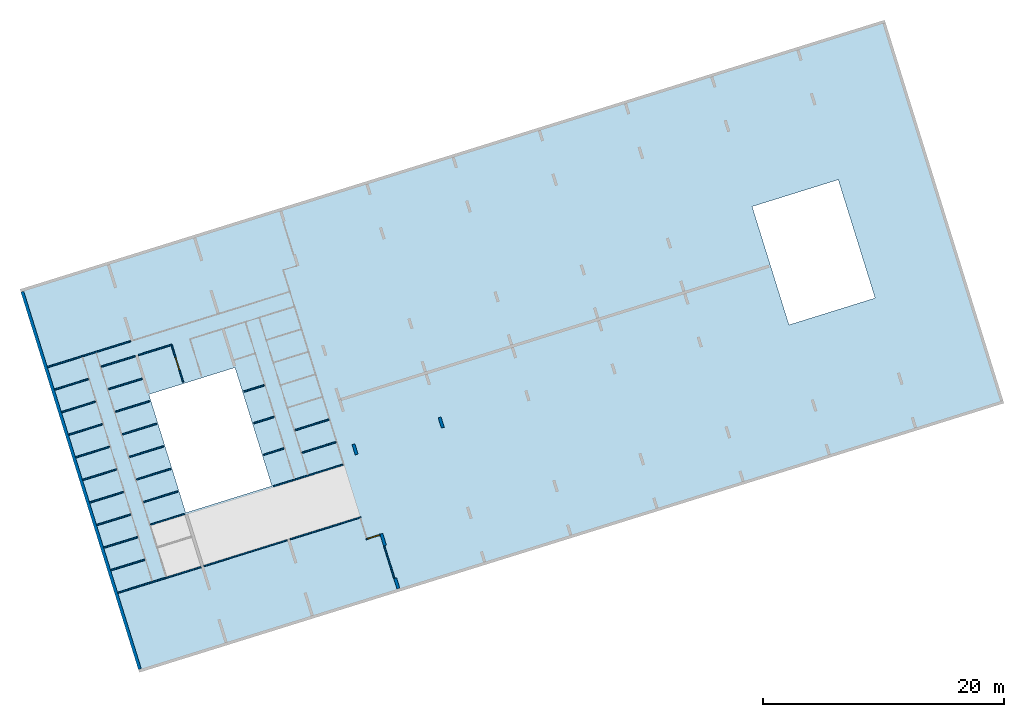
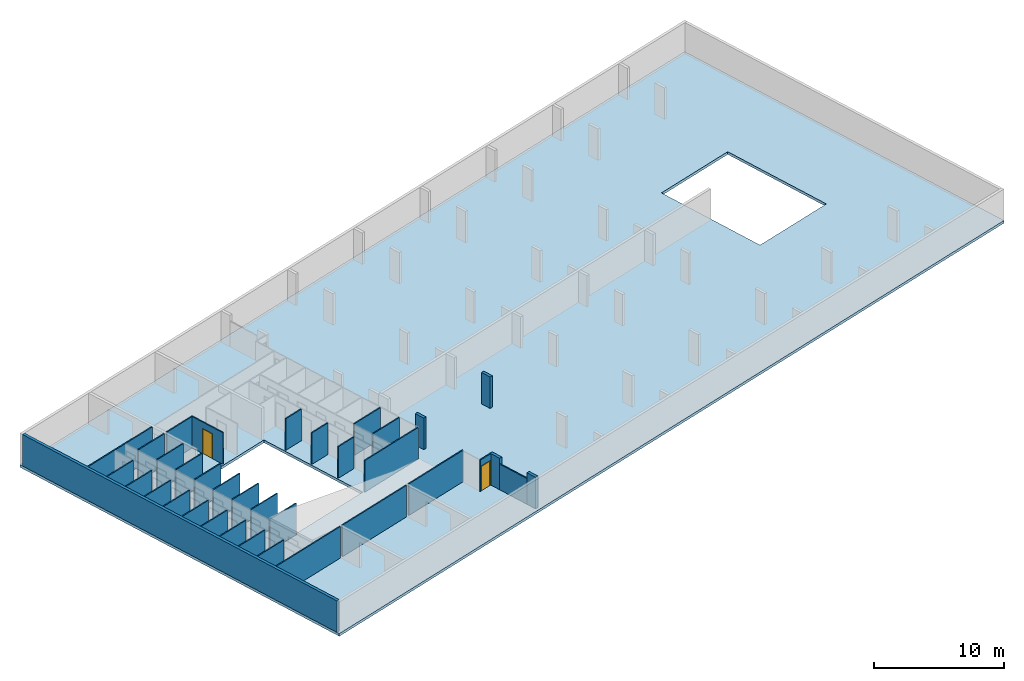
# One storey, part 1 of 7: 36 walls, 2 doors, 1 slab, 5 openings.
"""IFC4 building model written with IfcOpenShell, lengths in metres."""

from ifc_helpers import new_model, entity, si_unit, converted_unit, direction, frame, origin, place, context, subcontext, project, spatial, indexed_curve, outline, extrude, polygons, source, transform, mapped, material, constituent, constituent_set, type_object, type_shapes, element, fill, save


model = new_model("IFC4")

# Units and contexts
model_context = context("Model", 3, precision=1e-05, world=origin(), true_north=direction((6.12323399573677e-17, 1.0)))
body_context = subcontext(model_context, "Body", "Model", "MODEL_VIEW")
ifc_project = project(units=[si_unit("LENGTHUNIT", "METRE"), si_unit("AREAUNIT", "SQUARE_METRE"), si_unit("VOLUMEUNIT", "CUBIC_METRE"), converted_unit("PLANEANGLEUNIT", "DEGREE", entity("IfcPlaneAngleMeasure", 0.0174532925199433), si_unit("PLANEANGLEUNIT", "RADIAN"), dimensions=[0, 0, 0, 0, 0, 0, 0])], contexts=[model_context])

# Site, building, storey
site_placement = place(None, frame((13.1347999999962, 11.9886000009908, 0.0), z_axis=(0.0, 0.0, 1.0), x_axis=(0.954770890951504, 0.297342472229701, 0.0)))
site = spatial("IfcSite", under=ifc_project, at=site_placement, Name="Schiehaven", CompositionType="ELEMENT")
building_placement = place(site_placement, origin())
building = spatial("IfcBuilding", under=site, at=building_placement, Name="VORM huis", CompositionType="ELEMENT")
storey_placement = place(building_placement, frame((0.0, 0.0, -3.2)))
storey = spatial("IfcBuildingStorey", under=building, at=storey_placement, Name="-1 kelder", CompositionType="ELEMENT", Elevation=-3.2)

# Slab, openings
ifc_material_1 = material(Name="beton_gewapend_ihw", Category="Miscellaneous")
slab_type = type_object("IfcSlabType", Name="Floor:13_FL_funderingvloer 250mm", PredefinedType="FLOOR", material=ifc_material_1)
slab_placement = place(storey_placement, origin())
slab = element("IfcSlab", 1, at=slab_placement, inside=storey, type_object=slab_type, material=ifc_material_1, Name="Funderingvloer", ObjectType="Vloer", PredefinedType="FLOOR", context=body_context, shape_type="SweptSolid", body=[
    extrude(outline(indexed_curve([(-37.6250000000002, -16.6750000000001), (37.6250000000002, -16.6750000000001), (37.6250000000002, 16.6750000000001), (-37.6250000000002, 16.6750000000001), (-37.6250000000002, -16.6750000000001)], self_intersect=False), holes=[indexed_curve([(22.5000000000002, -5.14999999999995), (22.5000000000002, 5.15000000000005), (30.0000000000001, 5.15000000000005), (30.0000000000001, -5.14999999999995), (22.5000000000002, -5.14999999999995)], self_intersect=False), indexed_curve([(-29.9999999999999, -5.14999999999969), (-29.9999999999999, 5.15000000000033), (-22.4999999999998, 5.15000000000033), (-22.4999999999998, -5.14999999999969), (-29.9999999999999, -5.14999999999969)], self_intersect=False)]), frame((42.5000000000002, 17.0500000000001, -0.25), z_axis=(0.0, 0.0, 1.0), x_axis=(-1.0, 0.0, 0.0)), (0.0, 0.0, 1.0), 0.25),
])
opening_1_placement = place(slab_placement, origin())
element("IfcOpeningElement", 2, at=opening_1_placement, cuts=slab, Name="Funderingvloer", PredefinedType="OPENING", context=body_context, shape_type="SweptSolid", body=[
    extrude(outline(indexed_curve([(-5.15, -3.74999999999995), (5.15, -3.74999999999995), (5.15, 3.74999999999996), (-5.15, 3.74999999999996), (-5.15, -3.74999999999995)], self_intersect=False)), frame((16.2500000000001, 17.05, 0.0), z_axis=(0.0, 0.0, -1.0), x_axis=(0.0, -1.0, 0.0)), (0.0, 0.0, 1.0), 33.3500000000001),
])
opening_2_placement = place(slab_placement, origin())
element("IfcOpeningElement", 3, at=opening_2_placement, cuts=slab, Name="Funderingvloer", PredefinedType="OPENING", context=body_context, shape_type="SweptSolid", body=[
    extrude(outline(indexed_curve([(-5.15000000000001, -3.75000000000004), (5.15000000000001, -3.75000000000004), (5.15000000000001, 3.75000000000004), (-5.15000000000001, 3.75000000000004), (-5.15000000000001, -3.75000000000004)], self_intersect=False)), frame((68.7500000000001, 17.0499999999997, 0.0), z_axis=(0.0, 0.0, -1.0), x_axis=(0.0, -1.0, 0.0)), (0.0, 0.0, 1.0), 33.3500000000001),
])

# Walls
wall_type_1 = type_object("IfcWallType", Name="Basic Wall:28_WA_skelet_keerwand 250mm_gen", PredefinedType="STANDARD")
wall_1_placement = place(storey_placement, frame((5.0, 0.624999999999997, 0.0), z_axis=(0.0, 0.0, 1.0), x_axis=(0.0, 1.0, 0.0)))
element("IfcWall", 4, at=wall_1_placement, inside=storey, type_object=wall_type_1, material=ifc_material_1, Name="Constructieve keerwand", ObjectType="Wand", PredefinedType="NOTDEFINED", context=body_context, shape_type="SweptSolid", body=[
    extrude(outline(indexed_curve([(32.8500000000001, 0.125), (0.0, 0.125), (0.0, -0.125), (32.8500000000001, -0.125), (32.8500000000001, 0.125)], self_intersect=False)), origin(), (0.0, 0.0, 1.0), 2.95),
])
wall_type_2 = type_object("IfcWallType", Name="Basic Wall:28_WA_skelet_wand 250mm_gen", PredefinedType="STANDARD")
for number, where, z_axis, x_axis, name in (
    (5, (35.0, 12.2949999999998, 0.0), (0.0, 0.0, 1.0), (0.0, 1.0, 0.0), "Constructieve wand"),
    (6, (27.5000000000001, 12.2949999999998, 0.0), (0.0, 0.0, 1.0), (0.0, 1.0, 0.0), "Constructieve wand"),
):
    element("IfcWall", number, at=place(storey_placement, frame(where, z_axis=z_axis, x_axis=x_axis)), inside=storey, type_object=wall_type_2, material=ifc_material_1, Name=name, ObjectType="Wand", PredefinedType="NOTDEFINED", context=body_context, shape_type="SweptSolid", body=[
        extrude(outline(indexed_curve([(0.900000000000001, 0.125000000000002), (0.0, 0.125000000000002), (0.0, -0.125000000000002), (0.900000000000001, -0.125000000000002), (0.900000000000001, 0.125000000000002)], self_intersect=False)), origin(), (0.0, 0.0, 1.0), 2.95),
    ])
wall_2_placement = place(storey_placement, frame((27.5000000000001, 4.3749999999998, 0.0), z_axis=(0.0, 0.0, 1.0), x_axis=(0.0, 1.0, 0.0)))
element("IfcWall", 7, at=wall_2_placement, inside=storey, type_object=wall_type_2, material=ifc_material_1, Name="Constructieve wand", ObjectType="Wand", PredefinedType="NOTDEFINED", context=body_context, shape_type="SweptSolid", body=[
    extrude(outline(indexed_curve([(1.025, 0.125000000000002), (0.0, 0.125000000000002), (0.0, -0.125000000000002), (1.025, -0.125000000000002), (1.025, 0.125000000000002)], self_intersect=False)), origin(), (0.0, 0.0, 1.0), 2.95),
])
wall_3_placement = place(storey_placement, frame((27.5000000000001, 1.52500000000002, 0.0), z_axis=(0.0, 0.0, 1.0), x_axis=(0.0, -1.0, 0.0)))
element("IfcWall", 8, at=wall_3_placement, inside=storey, type_object=wall_type_2, material=ifc_material_1, Name="Constructieve wand", ObjectType="Wand", PredefinedType="NOTDEFINED", context=body_context, shape_type="SweptSolid", body=[
    extrude(outline(indexed_curve([(0.900000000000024, 0.125000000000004), (2.39074561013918e-16, 0.125000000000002), (-2.39074561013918e-16, -0.125000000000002), (0.900000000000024, -0.125), (0.900000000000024, 0.125000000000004)], self_intersect=False)), origin(), (0.0, 0.0, 1.0), 2.95),
])
ifc_material_2 = material(Name="ntb_ntb_ntb", Category="Miscellaneous")
wall_type_3 = type_object("IfcWallType", Name="Basic Wall:22_WA_afbouw_binnenwand 100mm_gen", PredefinedType="STANDARD")
wall_4_placement = place(storey_placement, frame((26.1750000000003, 11.825, 0.0), z_axis=(0.0, 0.0, 1.0), x_axis=(-1.0, 0.0, 0.0)))
element("IfcWall", 9, at=wall_4_placement, inside=storey, type_object=wall_type_3, material=ifc_material_2, Name="Binnenwand", ObjectType="Wand", PredefinedType="NOTDEFINED", context=body_context, shape_type="SweptSolid", body=[
    extrude(outline(indexed_curve([(6.05000000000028, 0.0499999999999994), (-1.60577808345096e-16, 0.0499999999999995), (1.60577808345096e-16, -0.0499999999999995), (6.05000000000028, -0.0499999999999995), (6.05000000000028, 0.0499999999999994)], self_intersect=False)), origin(), (0.0, 0.0, 1.0), 2.95),
])
wall_5_placement = place(storey_placement, frame((26.2750000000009, 7.22500000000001, 0.0), z_axis=(0.0, 0.0, 1.0), x_axis=(-1.0, 0.0, 0.0)))
element("IfcWall", 10, at=wall_5_placement, inside=storey, type_object=wall_type_3, material=ifc_material_2, Name="Binnenwand", ObjectType="Wand", PredefinedType="NOTDEFINED", context=body_context, shape_type="SweptSolid", body=[
    extrude(outline(indexed_curve([(6.15000000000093, 0.0499999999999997), (-1.60577808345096e-16, 0.0499999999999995), (1.60577808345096e-16, -0.0499999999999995), (6.15000000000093, -0.0499999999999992), (6.15000000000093, 0.0499999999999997)], self_intersect=False)), origin(), (0.0, 0.0, 1.0), 2.95),
])
wall_6_placement = place(storey_placement, frame((12.6250000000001, 7.22500000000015, 0.0)))
element("IfcWall", 11, at=wall_6_placement, inside=storey, type_object=wall_type_3, material=ifc_material_2, Name="Binnenwand", ObjectType="Wand", PredefinedType="NOTDEFINED", context=body_context, shape_type="SweptSolid", body=[
    extrude(outline(indexed_curve([(7.25000000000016, 0.0499999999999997), (-4.87118418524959e-16, 0.0499999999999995), (4.87118418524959e-16, -0.0499999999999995), (7.25000000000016, -0.0499999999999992), (7.25000000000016, 0.0499999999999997)], self_intersect=False)), origin(), (0.0, 0.0, 1.0), 2.95),
])

# Wall, opening, door
wall_7_placement = place(storey_placement, frame((15.5250000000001, 25.6249999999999, 0.0), z_axis=(0.0, 0.0, 1.0), x_axis=(0.0, -1.0, 0.0)))
wall_7 = element("IfcWall", 12, at=wall_7_placement, inside=storey, type_object=wall_type_3, material=ifc_material_2, Name="Binnenwand", ObjectType="Wand", PredefinedType="NOTDEFINED", context=body_context, shape_type="Tessellation", body=[
    polygons([(0.0, -0.0499999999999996, 0.0), (0.0999999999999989, -0.0500000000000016, 0.0), (1.17499999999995, -0.0500000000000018, 0.0), (1.17499999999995, -0.0500000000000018, 2.34999999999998), (2.22499999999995, -0.050000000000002, 2.34999999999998), (2.22499999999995, -0.050000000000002, 0.0), (3.2999999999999, -0.0500000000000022, 0.0), (3.2999999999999, -0.0500000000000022, 2.95), (0.0999999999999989, -0.0500000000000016, 2.95), (0.0, -0.0499999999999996, 2.95), (1.17499999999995, 0.0499999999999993, 2.34999999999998), (1.17499999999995, 0.0499999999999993, 0.0), (0.0, 0.0499999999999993, 0.0), (0.0, 0.0499999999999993, 2.95), (3.2999999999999, 0.0500000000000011, 2.95), (3.2999999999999, 0.0500000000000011, 0.0), (2.22499999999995, 0.0499999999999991, 0.0), (2.22499999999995, 0.0499999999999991, 2.34999999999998)], [[[1, 2, 3, 4, 5, 6, 7, 8, 9, 10]], [[11, 12, 13, 14, 15, 16, 17, 18]], [[13, 12, 3, 2, 1]], [[8, 7, 16, 15]], [[10, 9, 8, 15, 14]], [[1, 10, 14, 13]], [[6, 5, 18, 17]], [[4, 3, 12, 11]], [[5, 4, 11, 18]], [[17, 16, 7, 6]]], closed=True),
])
opening_3_placement = place(wall_7_placement, frame((1.17499999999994, -0.0500000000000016, 0.0)))
opening_3 = element("IfcOpeningElement", 13, at=opening_3_placement, cuts=wall_7, Name="Vluchtdeur", PredefinedType="OPENING", context=body_context, shape_type="SweptSolid", body=[
    extrude(outline(indexed_curve([(2.34999999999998, 1.05), (0.0, 1.05), (0.0, 0.0), (2.34999999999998, 0.0), (2.34999999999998, 1.05)], self_intersect=False)), frame((0.0, 0.0, 0.0), z_axis=(0.0, 1.0, 0.0), x_axis=(0.0, 0.0, 1.0)), (0.0, 0.0, 1.0), 0.1),
])
ifc_material_3 = material(Name="PD_a_binnenwandopeningen", Category="Miscellaneous")
ifc_constituent_1 = constituent(ifc_material_3, Name="PD_a_binnenwandopeningen", Category="Miscellaneous")
ifc_material_4 = material(Name="metaal_aluminium_ntb", Category="Miscellaneous")
ifc_constituent_2 = constituent(ifc_material_4, Name="metaal_aluminium_ntb", Category="Miscellaneous")
ifc_constituent_set_1 = constituent_set(constituents=[ifc_constituent_1, ifc_constituent_2])
door_type = type_object("IfcDoorType", Name="32_DO_binnendeur enkel:binnendeur zelfsluitend 30min", OperationType="NOTDEFINED", PredefinedType="DOOR")
shared_shape_1 = source(origin(), body_context, "Body", "SweptSolid", [
    extrude(outline(indexed_curve([(-1.16249999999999, -0.525000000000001), (1.18749999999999, -0.525), (1.18749999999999, 0.525), (-1.16249999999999, 0.525), (-1.16249999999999, 0.475), (1.13749999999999, 0.475), (1.13749999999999, -0.475), (-1.16249999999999, -0.475), (-1.16249999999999, -0.525000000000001)], self_intersect=False)), frame((0.525000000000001, 0.0, 1.16249999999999), z_axis=(0.0, 1.0, 0.0), x_axis=(0.0, 0.0, 1.0)), (0.0, 0.0, 1.0), 0.1),
    extrude(outline(indexed_curve([(-0.025, -0.475), (0.025, -0.475), (0.025, 0.475), (-0.025, 0.475), (-0.025, -0.475)], self_intersect=False)), frame((0.525000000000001, 0.0499999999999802, 0.0), z_axis=(0.0, 0.0, 1.0), x_axis=(0.0, 1.0, 0.0)), (0.0, 0.0, 1.0), 2.29999999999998),
])
type_shapes(door_type, [shared_shape_1])
door_1_placement = place(opening_3_placement, origin())
door_1 = element("IfcDoor", 14, at=door_1_placement, inside=storey, type_object=door_type, material=ifc_constituent_set_1, Name="Vluchtdeur", ObjectType="Deur", OperationType="NOTDEFINED", OverallHeight=2.34999999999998, OverallWidth=1.05, PredefinedType="DOOR", context=body_context, shape_type="MappedRepresentation", body=[
    mapped(shared_shape_1, transform((0.0, 0.0, 0.0), scale=1.0)),
])
fill(opening_3, door_1)

# Walls
wall_8_placement = place(storey_placement, frame((15.4750000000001, 25.5749999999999, 0.0), z_axis=(0.0, 0.0, 1.0), x_axis=(-1.0, 0.0, 0.0)))
element("IfcWall", 15, at=wall_8_placement, inside=storey, type_object=wall_type_3, material=ifc_material_2, Name="Binnenwand", ObjectType="Wand", PredefinedType="NOTDEFINED", context=body_context, shape_type="SweptSolid", body=[
    extrude(outline(indexed_curve([(2.84999999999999, 0.0500000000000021), (-1.60577808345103e-16, 0.0500000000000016), (1.60577808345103e-16, -0.0500000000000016), (2.84999999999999, -0.0500000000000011), (2.84999999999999, 0.0500000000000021)], self_intersect=False)), origin(), (0.0, 0.0, 1.0), 2.95),
])
wall_9_placement = place(storey_placement, frame((21.9000000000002, 14.575, 0.0), z_axis=(0.0, 0.0, 1.0), x_axis=(-1.0, 0.0, 0.0)))
element("IfcWall", 16, at=wall_9_placement, inside=storey, type_object=wall_type_3, material=ifc_material_2, Name="Binnenwand", ObjectType="Wand", PredefinedType="NOTDEFINED", context=body_context, shape_type="SweptSolid", body=[
    extrude(outline(indexed_curve([(1.77500000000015, 0.0499999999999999), (1.71543307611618e-16, 0.0499999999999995), (-1.71543307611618e-16, -0.0499999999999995), (1.77500000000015, -0.0499999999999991), (1.77500000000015, 0.0499999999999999)], self_intersect=False)), origin(), (0.0, 0.0, 1.0), 2.95),
])
wall_10_placement = place(storey_placement, frame((21.9000000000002, 20.0749999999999, 0.0), z_axis=(0.0, 0.0, 1.0), x_axis=(-1.0, 0.0, 0.0)))
element("IfcWall", 17, at=wall_10_placement, inside=storey, type_object=wall_type_3, material=ifc_material_2, Name="Binnenwand", ObjectType="Wand", PredefinedType="NOTDEFINED", context=body_context, shape_type="SweptSolid", body=[
    extrude(outline(indexed_curve([(1.77500000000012, 0.0499999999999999), (1.71543307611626e-16, 0.0500000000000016), (-1.71543307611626e-16, -0.0500000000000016), (1.77500000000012, -0.0500000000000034), (1.77500000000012, 0.0499999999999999)], self_intersect=False)), origin(), (0.0, 0.0, 1.0), 2.95),
])
wall_11_placement = place(storey_placement, frame((21.9000000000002, 17.3249999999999, 0.0), z_axis=(0.0, 0.0, 1.0), x_axis=(-1.0, 0.0, 0.0)))
element("IfcWall", 18, at=wall_11_placement, inside=storey, type_object=wall_type_3, material=ifc_material_2, Name="Binnenwand", ObjectType="Wand", PredefinedType="NOTDEFINED", context=body_context, shape_type="SweptSolid", body=[
    extrude(outline(indexed_curve([(1.77500000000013, 0.0499999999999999), (1.71543307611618e-16, 0.0499999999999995), (-1.71543307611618e-16, -0.0499999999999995), (1.77500000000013, -0.0499999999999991), (1.77500000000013, 0.0499999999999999)], self_intersect=False)), origin(), (0.0, 0.0, 1.0), 2.95),
])
for number, where in (
    (19, (23.2000000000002, 13.7892857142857, 0.0)),
    (20, (23.2000000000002, 15.7535714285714, 0.0)),
):
    element("IfcWall", number, at=place(storey_placement, frame(where)), inside=storey, type_object=wall_type_3, material=ifc_material_2, Name="Binnenwand", ObjectType="Wand", PredefinedType="NOTDEFINED", context=body_context, shape_type="SweptSolid", body=[
        extrude(outline(indexed_curve([(2.97500000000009, 0.0499999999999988), (-1.71543307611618e-16, 0.0499999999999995), (1.71543307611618e-16, -0.0499999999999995), (2.97500000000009, -0.0500000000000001), (2.97500000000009, 0.0499999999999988)], self_intersect=False)), origin(), (0.0, 0.0, 1.0), 2.95),
    ])
wall_12_placement = place(storey_placement, frame((5.12499999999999, 26.875, 0.0)))
element("IfcWall", 21, at=wall_12_placement, inside=storey, type_object=wall_type_3, material=ifc_material_2, Name="Binnenwand", ObjectType="Wand", PredefinedType="NOTDEFINED", context=body_context, shape_type="SweptSolid", body=[
    extrude(outline(indexed_curve([(7.25000000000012, 0.0500000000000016), (-3.58466360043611e-16, 0.0500000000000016), (3.58466360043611e-16, -0.0500000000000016), (7.25000000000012, -0.0500000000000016), (7.25000000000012, 0.0500000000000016)], self_intersect=False)), origin(), (0.0, 0.0, 1.0), 2.95),
])
wall_13_placement = place(storey_placement, frame((5.12499999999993, 7.22500000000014, 0.0)))
element("IfcWall", 22, at=wall_13_placement, inside=storey, type_object=wall_type_3, material=ifc_material_2, Name="Binnenwand", ObjectType="Wand", PredefinedType="NOTDEFINED", context=body_context, shape_type="SweptSolid", body=[
    extrude(outline(indexed_curve([(7.25000000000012, 0.0499999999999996), (3.63669267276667e-17, 0.0499999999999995), (-3.63669267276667e-17, -0.0499999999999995), (7.25000000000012, -0.0499999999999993), (7.25000000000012, 0.0499999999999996)], self_intersect=False)), origin(), (0.0, 0.0, 1.0), 2.95),
])
wall_14_placement = place(storey_placement, frame((9.40000000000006, 25.5749999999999, 0.0)))
element("IfcWall", 23, at=wall_14_placement, inside=storey, type_object=wall_type_3, material=ifc_material_2, Name="Binnenwand", ObjectType="Wand", PredefinedType="NOTDEFINED", context=body_context, shape_type="SweptSolid", body=[
    extrude(outline(indexed_curve([(2.97500000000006, 0.0499999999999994), (-1.80637123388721e-16, 0.0500000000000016), (-9.02230005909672e-16, -0.0500000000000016), (2.97500000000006, -0.0500000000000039), (2.97500000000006, 0.0499999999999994)], self_intersect=False)), origin(), (0.0, 0.0, 1.0), 2.95),
])
wall_15_placement = place(storey_placement, frame((8.10000000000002, 17.0500000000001, 0.0), z_axis=(0.0, 0.0, 1.0), x_axis=(-1.0, 0.0, 0.0)))
element("IfcWall", 24, at=wall_15_placement, inside=storey, type_object=wall_type_3, material=ifc_material_2, Name="Binnenwand", ObjectType="Wand", PredefinedType="NOTDEFINED", context=body_context, shape_type="SweptSolid", body=[
    extrude(outline(indexed_curve([(2.97500000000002, 0.0499999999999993), (-1.43189041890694e-16, 0.0499999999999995), (1.43189041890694e-16, -0.0499999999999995), (2.97500000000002, -0.0499999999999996), (2.97500000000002, 0.0499999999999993)], self_intersect=False)), origin(), (0.0, 0.0, 1.0), 2.95),
])
wall_16_placement = place(storey_placement, frame((8.10000000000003, 20.9800000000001, 0.0), z_axis=(0.0, 0.0, 1.0), x_axis=(-1.0, 0.0, 0.0)))
element("IfcWall", 25, at=wall_16_placement, inside=storey, type_object=wall_type_3, material=ifc_material_2, Name="Binnenwand", ObjectType="Wand", PredefinedType="NOTDEFINED", context=body_context, shape_type="SweptSolid", body=[
    extrude(outline(indexed_curve([(2.97500000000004, 0.0500000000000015), (-1.43189041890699e-16, 0.0500000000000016), (1.43189041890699e-16, -0.0500000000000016), (2.97500000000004, -0.0500000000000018), (2.97500000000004, 0.0500000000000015)], self_intersect=False)), origin(), (0.0, 0.0, 1.0), 2.95),
])
wall_17_placement = place(storey_placement, frame((8.10000000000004, 22.9450000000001, 0.0), z_axis=(0.0, 0.0, 1.0), x_axis=(-1.0, 0.0, 0.0)))
element("IfcWall", 26, at=wall_17_placement, inside=storey, type_object=wall_type_3, material=ifc_material_2, Name="Binnenwand", ObjectType="Wand", PredefinedType="NOTDEFINED", context=body_context, shape_type="SweptSolid", body=[
    extrude(outline(indexed_curve([(2.97500000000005, 0.0500000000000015), (-1.43189041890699e-16, 0.0500000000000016), (1.43189041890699e-16, -0.0500000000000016), (2.97500000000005, -0.0500000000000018), (2.97500000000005, 0.0500000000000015)], self_intersect=False)), origin(), (0.0, 0.0, 1.0), 2.95),
])
wall_18_placement = place(storey_placement, frame((8.10000000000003, 19.0150000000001, 0.0), z_axis=(0.0, 0.0, 1.0), x_axis=(-1.0, 0.0, 0.0)))
element("IfcWall", 27, at=wall_18_placement, inside=storey, type_object=wall_type_3, material=ifc_material_2, Name="Binnenwand", ObjectType="Wand", PredefinedType="NOTDEFINED", context=body_context, shape_type="SweptSolid", body=[
    extrude(outline(indexed_curve([(2.97500000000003, 0.0499999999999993), (-1.43189041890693e-16, 0.0499999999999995), (1.43189041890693e-16, -0.0499999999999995), (2.97500000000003, -0.0499999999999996), (2.97500000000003, 0.0499999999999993)], self_intersect=False)), origin(), (0.0, 0.0, 1.0), 2.95),
])
wall_19_placement = place(storey_placement, frame((9.40000000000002, 17.7178571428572, 0.0)))
element("IfcWall", 28, at=wall_19_placement, inside=storey, type_object=wall_type_3, material=ifc_material_2, Name="Binnenwand", ObjectType="Wand", PredefinedType="NOTDEFINED", context=body_context, shape_type="SweptSolid", body=[
    extrude(outline(indexed_curve([(2.97500000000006, 0.0499999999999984), (-4.91905221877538e-16, 0.0499999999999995), (4.91905221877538e-16, -0.0499999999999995), (2.97500000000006, -0.0500000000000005), (2.97500000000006, 0.0499999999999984)], self_intersect=False)), origin(), (0.0, 0.0, 1.0), 2.95),
])
wall_20_placement = place(storey_placement, frame((9.40000000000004, 21.6464285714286, 0.0)))
element("IfcWall", 29, at=wall_20_placement, inside=storey, type_object=wall_type_3, material=ifc_material_2, Name="Binnenwand", ObjectType="Wand", PredefinedType="NOTDEFINED", context=body_context, shape_type="SweptSolid", body=[
    extrude(outline(indexed_curve([(2.97500000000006, 0.0500000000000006), (-4.91905221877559e-16, 0.0500000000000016), (4.91905221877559e-16, -0.0500000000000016), (2.97500000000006, -0.0500000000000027), (2.97500000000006, 0.0500000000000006)], self_intersect=False)), origin(), (0.0, 0.0, 1.0), 2.95),
])
wall_21_placement = place(storey_placement, frame((9.40000000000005, 23.6107142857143, 0.0)))
element("IfcWall", 30, at=wall_21_placement, inside=storey, type_object=wall_type_3, material=ifc_material_2, Name="Binnenwand", ObjectType="Wand", PredefinedType="NOTDEFINED", context=body_context, shape_type="SweptSolid", body=[
    extrude(outline(indexed_curve([(2.97499999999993, 0.0500000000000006), (-4.91905221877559e-16, 0.0500000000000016), (4.91905221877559e-16, -0.0500000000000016), (2.97499999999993, -0.0500000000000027), (2.97499999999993, 0.0500000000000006)], self_intersect=False)), origin(), (0.0, 0.0, 1.0), 2.95),
])
wall_22_placement = place(storey_placement, frame((9.40000000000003, 19.6821428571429, 0.0)))
element("IfcWall", 31, at=wall_22_placement, inside=storey, type_object=wall_type_3, material=ifc_material_2, Name="Binnenwand", ObjectType="Wand", PredefinedType="NOTDEFINED", context=body_context, shape_type="SweptSolid", body=[
    extrude(outline(indexed_curve([(2.97499999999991, 0.0500000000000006), (-4.91905221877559e-16, 0.0500000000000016), (4.91905221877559e-16, -0.0500000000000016), (2.97499999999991, -0.0500000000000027), (2.97499999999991, 0.0500000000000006)], self_intersect=False)), origin(), (0.0, 0.0, 1.0), 2.95),
])
for number, where, z_axis, x_axis in (
    (32, (8.1, 13.1200000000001, 0.0), (0.0, 0.0, 1.0), (-1.0, 0.0, 0.0)),
    (33, (8.09999999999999, 11.1550000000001, 0.0), (0.0, 0.0, 1.0), (-1.0, 0.0, 0.0)),
):
    element("IfcWall", number, at=place(storey_placement, frame(where, z_axis=z_axis, x_axis=x_axis)), inside=storey, type_object=wall_type_3, material=ifc_material_2, Name="Binnenwand", ObjectType="Wand", PredefinedType="NOTDEFINED", context=body_context, shape_type="SweptSolid", body=[
        extrude(outline(indexed_curve([(2.975, 0.0499999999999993), (-1.43189041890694e-16, 0.0499999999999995), (1.43189041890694e-16, -0.0499999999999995), (2.975, -0.0499999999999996), (2.975, 0.0499999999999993)], self_intersect=False)), origin(), (0.0, 0.0, 1.0), 2.95),
    ])
wall_23_placement = place(storey_placement, frame((8.10000000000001, 15.0850000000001, 0.0), z_axis=(0.0, 0.0, 1.0), x_axis=(-1.0, 0.0, 0.0)))
element("IfcWall", 34, at=wall_23_placement, inside=storey, type_object=wall_type_3, material=ifc_material_2, Name="Binnenwand", ObjectType="Wand", PredefinedType="NOTDEFINED", context=body_context, shape_type="SweptSolid", body=[
    extrude(outline(indexed_curve([(2.97500000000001, 0.0499999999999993), (-1.43189041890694e-16, 0.0499999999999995), (1.43189041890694e-16, -0.0499999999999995), (2.97500000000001, -0.0499999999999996), (2.97500000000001, 0.0499999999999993)], self_intersect=False)), origin(), (0.0, 0.0, 1.0), 2.95),
])
wall_24_placement = place(storey_placement, frame((9.4, 13.7892857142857, 0.0)))
element("IfcWall", 35, at=wall_24_placement, inside=storey, type_object=wall_type_3, material=ifc_material_2, Name="Binnenwand", ObjectType="Wand", PredefinedType="NOTDEFINED", context=body_context, shape_type="SweptSolid", body=[
    extrude(outline(indexed_curve([(2.97500000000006, 0.0500000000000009), (1.94268008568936e-16, 0.0499999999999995), (-1.94268008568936e-16, -0.0499999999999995), (2.97500000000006, -0.049999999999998), (2.97500000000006, 0.0500000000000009)], self_intersect=False)), origin(), (0.0, 0.0, 1.0), 2.95),
])
wall_25_placement = place(storey_placement, frame((9.39999999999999, 11.825, 0.0)))
element("IfcWall", 36, at=wall_25_placement, inside=storey, type_object=wall_type_3, material=ifc_material_2, Name="Binnenwand", ObjectType="Wand", PredefinedType="NOTDEFINED", context=body_context, shape_type="SweptSolid", body=[
    extrude(outline(indexed_curve([(2.97500000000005, 0.0500000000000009), (1.94268008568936e-16, 0.0499999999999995), (-1.94268008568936e-16, -0.0499999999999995), (2.97500000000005, -0.049999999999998), (2.97500000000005, 0.0500000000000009)], self_intersect=False)), origin(), (0.0, 0.0, 1.0), 2.95),
])
wall_26_placement = place(storey_placement, frame((9.40000000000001, 15.7535714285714, 0.0)))
element("IfcWall", 37, at=wall_26_placement, inside=storey, type_object=wall_type_3, material=ifc_material_2, Name="Binnenwand", ObjectType="Wand", PredefinedType="NOTDEFINED", context=body_context, shape_type="SweptSolid", body=[
    extrude(outline(indexed_curve([(2.97500000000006, 0.0500000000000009), (1.94268008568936e-16, 0.0499999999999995), (-1.94268008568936e-16, -0.0499999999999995), (2.97500000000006, -0.049999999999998), (2.97500000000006, 0.0500000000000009)], self_intersect=False)), origin(), (0.0, 0.0, 1.0), 2.95),
])
wall_27_placement = place(storey_placement, frame((8.10000000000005, 24.9100000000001, 0.0), z_axis=(0.0, 0.0, 1.0), x_axis=(-1.0, 0.0, 0.0)))
element("IfcWall", 38, at=wall_27_placement, inside=storey, type_object=wall_type_3, material=ifc_material_2, Name="Binnenwand", ObjectType="Wand", PredefinedType="NOTDEFINED", context=body_context, shape_type="SweptSolid", body=[
    extrude(outline(indexed_curve([(2.97500000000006, 0.0500000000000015), (-1.43189041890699e-16, 0.0500000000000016), (1.43189041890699e-16, -0.0500000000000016), (2.97500000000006, -0.0500000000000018), (2.97500000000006, 0.0500000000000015)], self_intersect=False)), origin(), (0.0, 0.0, 1.0), 2.95),
])
wall_28_placement = place(storey_placement, frame((8.09999999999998, 9.19000000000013, 0.0), z_axis=(0.0, 0.0, 1.0), x_axis=(-1.0, 0.0, 0.0)))
element("IfcWall", 39, at=wall_28_placement, inside=storey, type_object=wall_type_3, material=ifc_material_2, Name="Binnenwand", ObjectType="Wand", PredefinedType="NOTDEFINED", context=body_context, shape_type="SweptSolid", body=[
    extrude(outline(indexed_curve([(2.97499999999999, 0.0500000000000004), (-1.43189041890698e-16, 0.0500000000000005), (1.43189041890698e-16, -0.0500000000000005), (2.97499999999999, -0.0500000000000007), (2.97499999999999, 0.0500000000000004)], self_intersect=False)), origin(), (0.0, 0.0, 1.0), 2.95),
])

# Wall, openings, door
wall_29_placement = place(storey_placement, frame((26.1750000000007, 5.3499999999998, 0.0)))
wall_29 = element("IfcWall", 40, at=wall_29_placement, inside=storey, type_object=wall_type_3, material=ifc_material_2, Name="Binnenwand", ObjectType="Wand", PredefinedType="NOTDEFINED", context=body_context, shape_type="Tessellation", body=[
    polygons([(1.19999999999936, -0.0500000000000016, 0.0), (1.19999999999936, -0.0500000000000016, 2.95), (4.8406767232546e-15, -0.0500000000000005, 2.95), (4.8406767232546e-15, -0.0500000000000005, 0.0), (0.0999999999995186, -0.0500000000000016, 0.0), (0.0999999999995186, -0.0500000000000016, 2.34999999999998), (1.14999999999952, -0.0500000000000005, 2.34999999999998), (1.14999999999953, -0.0500000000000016, 0.0), (1.19999999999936, 0.0499999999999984, 2.95), (1.19999999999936, 0.0499999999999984, 0.0), (1.14999999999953, 0.0499999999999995, 0.0), (1.14999999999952, 0.0499999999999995, 2.34999999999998), (0.099999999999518, 0.0499999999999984, 2.34999999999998), (0.0999999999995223, 0.0499999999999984, 0.0), (1.28594148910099e-14, 0.0499999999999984, 0.0), (1.28594148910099e-14, 0.0499999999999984, 2.95), (0.100000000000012, 0.0499999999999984, 2.95)], [[[1, 2, 3, 4, 5, 6, 7, 8]], [[9, 10, 11, 12, 13, 14, 15, 16, 17]], [[4, 15, 14, 5]], [[2, 1, 10, 9]], [[3, 2, 9, 17, 16]], [[13, 6, 5, 14]], [[7, 12, 11, 8]], [[6, 13, 12, 7]], [[4, 3, 16, 15]], [[10, 1, 8, 11]]], closed=True),
])
opening_4_placement = place(wall_29_placement, frame((0.0999999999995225, -0.0500000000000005, 0.0)))
opening_4 = element("IfcOpeningElement", 41, at=opening_4_placement, cuts=wall_29, Name="Vluchtdeur", PredefinedType="OPENING", context=body_context, shape_type="SweptSolid", body=[
    extrude(outline(indexed_curve([(2.34999999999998, 0.0), (2.34999999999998, 1.05), (0.0, 1.05), (0.0, 0.0), (2.34999999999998, 0.0)], self_intersect=False)), frame((0.0, 0.0, 0.0), z_axis=(0.0, 1.0, 0.0), x_axis=(0.0, 0.0, 1.0)), (0.0, 0.0, 1.0), 0.1),
])
opening_5_placement = place(wall_29_placement, frame((-26.1750000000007, -5.3499999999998, 0.0)))
element("IfcOpeningElement", 42, at=opening_5_placement, cuts=wall_29, Name="Vluchtdeur", PredefinedType="OPENING", context=body_context, shape_type="SweptSolid", body=[
    extrude(outline(indexed_curve([(-0.525000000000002, -1.17499999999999), (0.525000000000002, -1.17499999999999), (0.524999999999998, 1.17499999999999), (-0.525000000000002, 1.17499999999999), (-0.525000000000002, -1.17499999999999)], self_intersect=False)), frame((26.8000000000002, 3.77599999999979, 1.17499999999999), z_axis=(0.0, 1.0, 0.0), x_axis=(1.0, 0.0, 0.0)), (0.0, 0.0, 1.0), 3.048),
])
ifc_constituent_3 = constituent(ifc_material_3, Name="PD_a_binnenwandopeningen", Category="Miscellaneous")
ifc_constituent_4 = constituent(ifc_material_4, Name="metaal_aluminium_ntb", Category="Miscellaneous")
ifc_constituent_set_2 = constituent_set(constituents=[ifc_constituent_3, ifc_constituent_4])
shared_shape_2 = source(origin(), body_context, "Body", "SweptSolid", [
    extrude(outline(indexed_curve([(0.475, -1.16249999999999), (0.525, -1.16249999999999), (0.525, 1.18749999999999), (-0.525, 1.18749999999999), (-0.525, -1.16249999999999), (-0.475, -1.16249999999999), (-0.475, 1.13749999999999), (0.475, 1.13749999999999), (0.475, -1.16249999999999)], self_intersect=False)), frame((0.525000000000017, 0.100000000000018, 1.16249999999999), z_axis=(0.0, -1.0, 0.0), x_axis=(1.0, 0.0, 0.0)), (0.0, 0.0, 1.0), 0.1),
    extrude(outline(indexed_curve([(-0.475, -0.025), (0.475, -0.025), (0.475, 0.025), (-0.475, 0.025), (-0.475, -0.025)], self_intersect=False)), frame((0.525000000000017, 0.0499999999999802, 0.0)), (0.0, 0.0, 1.0), 2.29999999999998),
])
door_2_placement = place(opening_4_placement, origin())
door_2 = element("IfcDoor", 43, at=door_2_placement, inside=storey, type_object=door_type, material=ifc_constituent_set_2, Name="Vluchtdeur", ObjectType="Deur", OperationType="NOTDEFINED", OverallHeight=2.34999999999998, OverallWidth=1.05, PredefinedType="DOOR", context=body_context, shape_type="MappedRepresentation", body=[
    mapped(shared_shape_2, transform((0.0, 0.0, 0.0), scale=1.0)),
])
fill(opening_4, door_2)

# Wall
wall_30_placement = place(storey_placement, frame((27.4250000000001, 4.37499999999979, 0.0), z_axis=(0.0, 0.0, 1.0), x_axis=(0.0, -1.0, 0.0)))
element("IfcWall", 44, at=wall_30_placement, inside=storey, type_object=wall_type_3, material=ifc_material_2, Name="Binnenwand", ObjectType="Wand", PredefinedType="NOTDEFINED", context=body_context, shape_type="SweptSolid", body=[
    extrude(outline(indexed_curve([(2.84999999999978, 0.0500000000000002), (-2.03560655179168e-16, 0.0500000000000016), (2.03560655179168e-16, -0.0500000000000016), (2.84999999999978, -0.050000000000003), (2.84999999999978, 0.0500000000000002)], self_intersect=False)), origin(), (0.0, 0.0, 1.0), 2.4),
])

save(model, "model.ifc")
